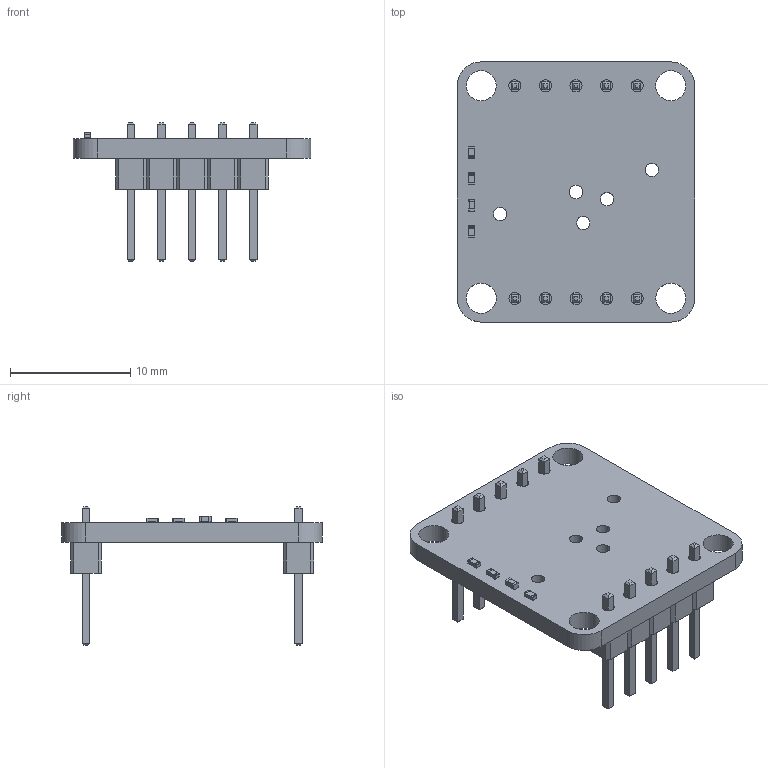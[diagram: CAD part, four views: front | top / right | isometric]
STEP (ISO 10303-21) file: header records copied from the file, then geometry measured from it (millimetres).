
FILE_DESCRIPTION(('KiCad electronic assembly'),'2;1');
FILE_NAME('STP_AXM0021.step','2024-11-12T17:19:20',('Pcbnew'),('Kicad'), 'Open CASCADE STEP processor 7.8','KiCad to STEP converter','Unknown' );
FILE_SCHEMA(('AUTOMOTIVE_DESIGN { 1 0 10303 214 1 1 1 1 }'));
Length unit declared in the file: millimetre
Products named in the file (10): STP_AXM0021 1; R_0402_1005Metric; LED_Button; C_0402_1005Metric; PinHeader_1x05_P2.54mm_Vertical; PinHeader_1x05_P254mm_Vertical; LEDButton_PCB
Assembly tree (12 placements, depth 3):
  STP_AXM0021 1
    R_0402_1005Metric  x3
      R_0402_1005Metric
    LED_Button
      LED_Button
    C_0402_1005Metric
      C_0402_1005Metric
    PinHeader_1x05_P2.54mm_Vertical  x2
      PinHeader_1x05_P254mm_Vertical
    LEDButton_PCB
Bounding box: 19.74 x 21.64 x 11.54 mm (x, y, z)
Volume: 823.7 mm3; surface area: 1557.8 mm2
Topology: 7 solids, 7 shells, 383 faces, 1009 edges, 722 vertices
Faces by surface type: plane 324, cylinder 59
Full cylindrical faces by diameter (mm): 1 x10, 1.1 x5, 2.5 x4
Entity records: 8019 total; most frequent: CARTESIAN_POINT 1323, DIRECTION 1043, ORIENTED_EDGE 1034, EDGE_CURVE 517, LINE 431, VECTOR 431, VERTEX_POINT 330, AXIS2_PLACEMENT_3D 306
